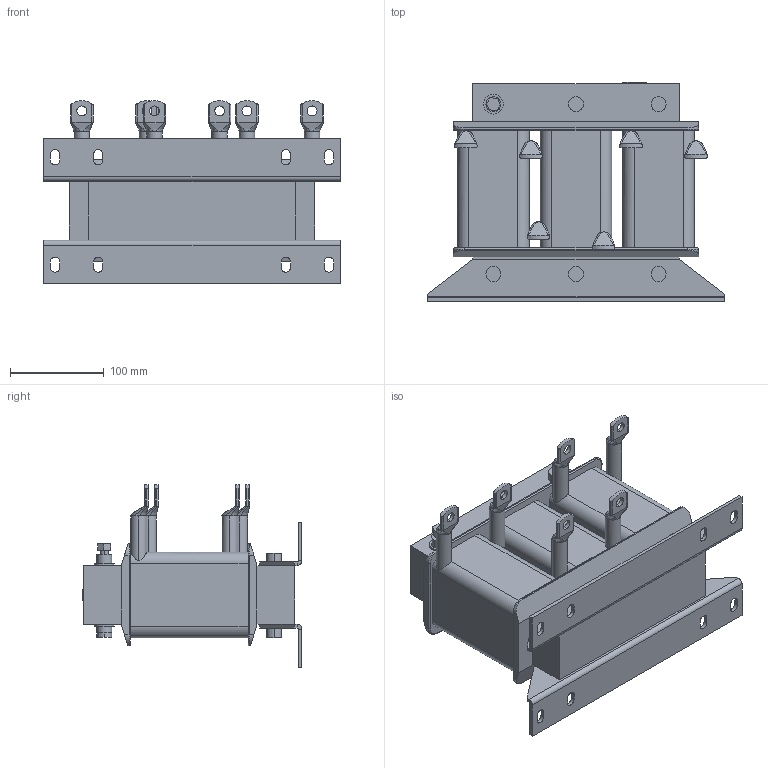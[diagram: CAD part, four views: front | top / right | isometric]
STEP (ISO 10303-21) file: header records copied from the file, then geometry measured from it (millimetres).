
FILE_DESCRIPTION (( 'STEP AP214' ), '1' );
FILE_NAME ('00Z1FX4-0024.STEP', '2022-08-15T12:10:33', ( '' ), ( '' ), 'SwSTEP 2.0', 'SolidWorks 2022', '' );
FILE_SCHEMA (( 'AUTOMOTIVE_DESIGN' ));
Length unit declared in the file: centimetre
Products named in the file (1): 00Z1FX4-0024
Bounding box: 316 x 234.02 x 195 mm (x, y, z)
Volume: 4439001 mm3; surface area: 347147.9 mm2
Topology: 1 solids, 1 shells, 377 faces, 966 edges, 616 vertices
Faces by surface type: plane 165, cylinder 143, bspline 61, torus 8
Entity records: 15709 total; most frequent: CARTESIAN_POINT 6787, ORIENTED_EDGE 1932, DIRECTION 1556, EDGE_CURVE 966, VERTEX_POINT 616, AXIS2_PLACEMENT_3D 545, VECTOR 466, LINE 466
